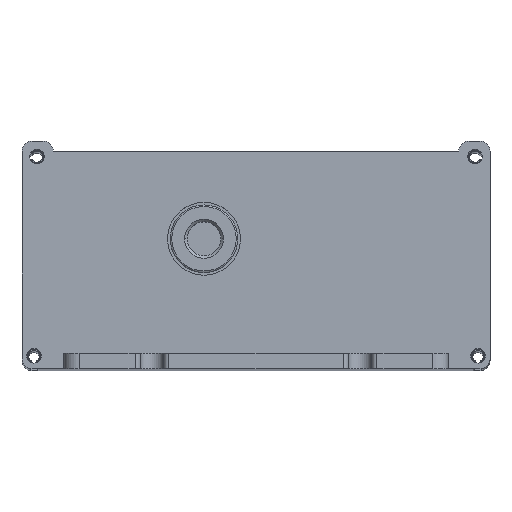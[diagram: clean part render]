
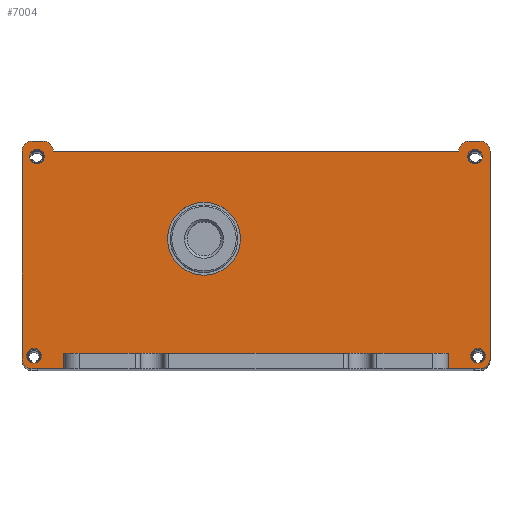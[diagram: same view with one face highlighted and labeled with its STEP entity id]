
A CAD part, top view. The second image highlights one B-rep face of the part: STEP entity #7004.
In plain terms, the highlighted planar face has unit normal (0, 0, 1).
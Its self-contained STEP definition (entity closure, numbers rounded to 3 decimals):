
#6075=DIRECTION('',(-1.,0.,0.));
#6076=VECTOR('',#6075,74.);
#6077=CARTESIAN_POINT('',(82.,3.,3.));
#6078=LINE('',#6077,#6076);
#6139=CARTESIAN_POINT('',(87.1,40.8,3.));
#6140=DIRECTION('',(0.,0.,-1.));
#6141=DIRECTION('',(1.,0.,0.));
#6142=AXIS2_PLACEMENT_3D('',#6139,#6140,#6141);
#6144=CARTESIAN_POINT('',(87.1,40.8,3.));
#6145=DIRECTION('',(0.,0.,-1.));
#6146=DIRECTION('',(-1.,0.,0.));
#6147=AXIS2_PLACEMENT_3D('',#6144,#6145,#6146);
#6149=CARTESIAN_POINT('',(2.9,40.8,3.));
#6150=DIRECTION('',(0.,0.,-1.));
#6151=DIRECTION('',(1.,0.,0.));
#6152=AXIS2_PLACEMENT_3D('',#6149,#6150,#6151);
#6154=CARTESIAN_POINT('',(2.9,40.8,3.));
#6155=DIRECTION('',(0.,0.,-1.));
#6156=DIRECTION('',(-1.,0.,0.));
#6157=AXIS2_PLACEMENT_3D('',#6154,#6155,#6156);
#6159=CARTESIAN_POINT('',(2.3,2.5,3.));
#6160=DIRECTION('',(0.,0.,-1.));
#6161=DIRECTION('',(-1.,0.,0.));
#6162=AXIS2_PLACEMENT_3D('',#6159,#6160,#6161);
#6164=CARTESIAN_POINT('',(2.3,2.5,3.));
#6165=DIRECTION('',(0.,0.,-1.));
#6166=DIRECTION('',(1.,0.,0.));
#6167=AXIS2_PLACEMENT_3D('',#6164,#6165,#6166);
#6169=CARTESIAN_POINT('',(87.7,2.5,3.));
#6170=DIRECTION('',(0.,0.,-1.));
#6171=DIRECTION('',(1.,0.,0.));
#6172=AXIS2_PLACEMENT_3D('',#6169,#6170,#6171);
#6174=CARTESIAN_POINT('',(87.7,2.5,3.));
#6175=DIRECTION('',(0.,0.,-1.));
#6176=DIRECTION('',(-1.,0.,0.));
#6177=AXIS2_PLACEMENT_3D('',#6174,#6175,#6176);
#6179=CARTESIAN_POINT('',(35.,25.,3.));
#6180=DIRECTION('',(0.,0.,-1.));
#6181=DIRECTION('',(-1.,0.,0.));
#6182=AXIS2_PLACEMENT_3D('',#6179,#6180,#6181);
#6184=CARTESIAN_POINT('',(35.,25.,3.));
#6185=DIRECTION('',(0.,0.,-1.));
#6186=DIRECTION('',(1.,0.,0.));
#6187=AXIS2_PLACEMENT_3D('',#6184,#6185,#6186);
#6189=DIRECTION('',(1.,0.,0.));
#6190=VECTOR('',#6189,6.);
#6191=CARTESIAN_POINT('',(2.,0.,3.));
#6192=LINE('',#6191,#6190);
#6193=CARTESIAN_POINT('',(2.,2.,3.));
#6194=DIRECTION('',(0.,0.,1.));
#6195=DIRECTION('',(-1.,0.,0.));
#6196=AXIS2_PLACEMENT_3D('',#6193,#6194,#6195);
#6198=DIRECTION('',(0.,-1.,0.));
#6199=VECTOR('',#6198,39.8);
#6200=CARTESIAN_POINT('',(0.,41.8,3.));
#6201=LINE('',#6200,#6199);
#6202=CARTESIAN_POINT('',(2.,41.8,3.));
#6203=DIRECTION('',(0.,0.,1.));
#6204=DIRECTION('',(0.,1.,0.));
#6205=AXIS2_PLACEMENT_3D('',#6202,#6203,#6204);
#6207=DIRECTION('',(-1.,0.,0.));
#6208=VECTOR('',#6207,2.);
#6209=CARTESIAN_POINT('',(4.,43.8,3.));
#6210=LINE('',#6209,#6208);
#6211=CARTESIAN_POINT('',(4.,41.8,3.));
#6212=DIRECTION('',(0.,0.,1.));
#6213=DIRECTION('',(1.,0.,0.));
#6214=AXIS2_PLACEMENT_3D('',#6211,#6212,#6213);
#6216=DIRECTION('',(-1.,0.,0.));
#6217=VECTOR('',#6216,78.);
#6218=CARTESIAN_POINT('',(84.,41.8,3.));
#6219=LINE('',#6218,#6217);
#6220=CARTESIAN_POINT('',(86.,41.8,3.));
#6221=DIRECTION('',(0.,0.,1.));
#6222=DIRECTION('',(0.,1.,0.));
#6223=AXIS2_PLACEMENT_3D('',#6220,#6221,#6222);
#6225=DIRECTION('',(-1.,0.,0.));
#6226=VECTOR('',#6225,2.);
#6227=CARTESIAN_POINT('',(88.,43.8,3.));
#6228=LINE('',#6227,#6226);
#6229=CARTESIAN_POINT('',(88.,41.8,3.));
#6230=DIRECTION('',(0.,0.,1.));
#6231=DIRECTION('',(1.,0.,0.));
#6232=AXIS2_PLACEMENT_3D('',#6229,#6230,#6231);
#6234=DIRECTION('',(0.,1.,0.));
#6235=VECTOR('',#6234,39.8);
#6236=CARTESIAN_POINT('',(90.,2.,3.));
#6237=LINE('',#6236,#6235);
#6238=CARTESIAN_POINT('',(88.,2.,3.));
#6239=DIRECTION('',(0.,0.,1.));
#6240=DIRECTION('',(0.,-1.,0.));
#6241=AXIS2_PLACEMENT_3D('',#6238,#6239,#6240);
#6243=DIRECTION('',(1.,0.,0.));
#6244=VECTOR('',#6243,6.);
#6245=CARTESIAN_POINT('',(82.,0.,3.));
#6246=LINE('',#6245,#6244);
#6287=DIRECTION('',(0.,-1.,0.));
#6288=VECTOR('',#6287,3.);
#6289=CARTESIAN_POINT('',(8.,3.,3.));
#6290=LINE('',#6289,#6288);
#6379=DIRECTION('',(0.,1.,0.));
#6380=VECTOR('',#6379,3.);
#6381=CARTESIAN_POINT('',(82.,0.,3.));
#6382=LINE('',#6381,#6380);
#6515=CARTESIAN_POINT('',(88.,43.8,3.));
#6516=CARTESIAN_POINT('',(86.,43.8,3.));
#6517=VERTEX_POINT('',#6515);
#6518=VERTEX_POINT('',#6516);
#6519=CARTESIAN_POINT('',(84.,41.8,3.));
#6520=VERTEX_POINT('',#6519);
#6521=CARTESIAN_POINT('',(6.,41.8,3.));
#6522=VERTEX_POINT('',#6521);
#6523=CARTESIAN_POINT('',(4.,43.8,3.));
#6524=VERTEX_POINT('',#6523);
#6525=CARTESIAN_POINT('',(2.,43.8,3.));
#6526=VERTEX_POINT('',#6525);
#6527=CARTESIAN_POINT('',(0.,41.8,3.));
#6528=VERTEX_POINT('',#6527);
#6529=CARTESIAN_POINT('',(0.,2.,3.));
#6530=VERTEX_POINT('',#6529);
#6531=CARTESIAN_POINT('',(2.,0.,3.));
#6532=VERTEX_POINT('',#6531);
#6533=CARTESIAN_POINT('',(88.,0.,3.));
#6534=CARTESIAN_POINT('',(90.,2.,3.));
#6535=VERTEX_POINT('',#6533);
#6536=VERTEX_POINT('',#6534);
#6537=CARTESIAN_POINT('',(90.,41.8,3.));
#6538=VERTEX_POINT('',#6537);
#6539=CARTESIAN_POINT('',(88.5,40.8,3.));
#6540=CARTESIAN_POINT('',(85.7,40.8,3.));
#6541=VERTEX_POINT('',#6539);
#6542=VERTEX_POINT('',#6540);
#6543=CARTESIAN_POINT('',(4.3,40.8,3.));
#6544=CARTESIAN_POINT('',(1.5,40.8,3.));
#6545=VERTEX_POINT('',#6543);
#6546=VERTEX_POINT('',#6544);
#6547=CARTESIAN_POINT('',(0.9,2.5,3.));
#6548=CARTESIAN_POINT('',(3.7,2.5,3.));
#6549=VERTEX_POINT('',#6547);
#6550=VERTEX_POINT('',#6548);
#6551=CARTESIAN_POINT('',(89.1,2.5,3.));
#6552=CARTESIAN_POINT('',(86.3,2.5,3.));
#6553=VERTEX_POINT('',#6551);
#6554=VERTEX_POINT('',#6552);
#6555=CARTESIAN_POINT('',(28.,25.,3.));
#6556=CARTESIAN_POINT('',(42.,25.,3.));
#6557=VERTEX_POINT('',#6555);
#6558=VERTEX_POINT('',#6556);
#6559=CARTESIAN_POINT('',(8.,3.,3.));
#6560=CARTESIAN_POINT('',(8.,0.,3.));
#6561=VERTEX_POINT('',#6559);
#6562=VERTEX_POINT('',#6560);
#6563=CARTESIAN_POINT('',(82.,0.,3.));
#6564=CARTESIAN_POINT('',(82.,3.,3.));
#6565=VERTEX_POINT('',#6563);
#6566=VERTEX_POINT('',#6564);
#6949=CARTESIAN_POINT('',(0.,0.,3.));
#6950=DIRECTION('',(0.,0.,1.));
#6951=DIRECTION('',(1.,0.,0.));
#6952=AXIS2_PLACEMENT_3D('',#6949,#6950,#6951);
#6953=PLANE('',#6952);
#6955=ORIENTED_EDGE('',*,*,#6954,.T.);
#6956=ORIENTED_EDGE('',*,*,#6796,.F.);
#6957=ORIENTED_EDGE('',*,*,#6636,.F.);
#6958=ORIENTED_EDGE('',*,*,#6651,.F.);
#6959=ORIENTED_EDGE('',*,*,#6665,.F.);
#6960=ORIENTED_EDGE('',*,*,#6679,.F.);
#6961=ORIENTED_EDGE('',*,*,#6693,.F.);
#6962=ORIENTED_EDGE('',*,*,#6707,.F.);
#6963=ORIENTED_EDGE('',*,*,#6721,.F.);
#6964=ORIENTED_EDGE('',*,*,#6735,.F.);
#6965=ORIENTED_EDGE('',*,*,#6749,.F.);
#6966=ORIENTED_EDGE('',*,*,#6763,.F.);
#6967=ORIENTED_EDGE('',*,*,#6777,.F.);
#6968=ORIENTED_EDGE('',*,*,#6791,.F.);
#6970=ORIENTED_EDGE('',*,*,#6969,.T.);
#6971=ORIENTED_EDGE('',*,*,#6904,.T.);
#6972=EDGE_LOOP('',(#6955,#6956,#6957,#6958,#6959,#6960,#6961,#6962,#6963,#6964,
#6965,#6966,#6967,#6968,#6970,#6971));
#6973=FACE_OUTER_BOUND('',#6972,.F.);
#6975=ORIENTED_EDGE('',*,*,#6974,.F.);
#6977=ORIENTED_EDGE('',*,*,#6976,.F.);
#6978=EDGE_LOOP('',(#6975,#6977));
#6979=FACE_BOUND('',#6978,.F.);
#6981=ORIENTED_EDGE('',*,*,#6980,.F.);
#6983=ORIENTED_EDGE('',*,*,#6982,.F.);
#6984=EDGE_LOOP('',(#6981,#6983));
#6985=FACE_BOUND('',#6984,.F.);
#6987=ORIENTED_EDGE('',*,*,#6986,.F.);
#6989=ORIENTED_EDGE('',*,*,#6988,.F.);
#6990=EDGE_LOOP('',(#6987,#6989));
#6991=FACE_BOUND('',#6990,.F.);
#6993=ORIENTED_EDGE('',*,*,#6992,.F.);
#6995=ORIENTED_EDGE('',*,*,#6994,.F.);
#6996=EDGE_LOOP('',(#6993,#6995));
#6997=FACE_BOUND('',#6996,.F.);
#6999=ORIENTED_EDGE('',*,*,#6998,.F.);
#7001=ORIENTED_EDGE('',*,*,#7000,.F.);
#7002=EDGE_LOOP('',(#6999,#7001));
#7003=FACE_BOUND('',#7002,.F.);
#6143=CIRCLE('',#6142,1.4);
#6148=CIRCLE('',#6147,1.4);
#6153=CIRCLE('',#6152,1.4);
#6158=CIRCLE('',#6157,1.4);
#6163=CIRCLE('',#6162,1.4);
#6168=CIRCLE('',#6167,1.4);
#6173=CIRCLE('',#6172,1.4);
#6178=CIRCLE('',#6177,1.4);
#6183=CIRCLE('',#6182,7.);
#6188=CIRCLE('',#6187,7.);
#6197=CIRCLE('',#6196,2.);
#6206=CIRCLE('',#6205,2.);
#6215=CIRCLE('',#6214,2.);
#6224=CIRCLE('',#6223,2.);
#6233=CIRCLE('',#6232,2.);
#6242=CIRCLE('',#6241,2.);
#6636=EDGE_CURVE('',#6530,#6532,#6197,.T.);
#6651=EDGE_CURVE('',#6528,#6530,#6201,.T.);
#6665=EDGE_CURVE('',#6526,#6528,#6206,.T.);
#6679=EDGE_CURVE('',#6524,#6526,#6210,.T.);
#6693=EDGE_CURVE('',#6522,#6524,#6215,.T.);
#6707=EDGE_CURVE('',#6520,#6522,#6219,.T.);
#6721=EDGE_CURVE('',#6518,#6520,#6224,.T.);
#6735=EDGE_CURVE('',#6517,#6518,#6228,.T.);
#6749=EDGE_CURVE('',#6538,#6517,#6233,.T.);
#6763=EDGE_CURVE('',#6536,#6538,#6237,.T.);
#6777=EDGE_CURVE('',#6535,#6536,#6242,.T.);
#6791=EDGE_CURVE('',#6565,#6535,#6246,.T.);
#6796=EDGE_CURVE('',#6532,#6562,#6192,.T.);
#6904=EDGE_CURVE('',#6566,#6561,#6078,.T.);
#6954=EDGE_CURVE('',#6561,#6562,#6290,.T.);
#6969=EDGE_CURVE('',#6565,#6566,#6382,.T.);
#6974=EDGE_CURVE('',#6545,#6546,#6153,.T.);
#6976=EDGE_CURVE('',#6546,#6545,#6158,.T.);
#6980=EDGE_CURVE('',#6549,#6550,#6163,.T.);
#6982=EDGE_CURVE('',#6550,#6549,#6168,.T.);
#6986=EDGE_CURVE('',#6553,#6554,#6173,.T.);
#6988=EDGE_CURVE('',#6554,#6553,#6178,.T.);
#6992=EDGE_CURVE('',#6557,#6558,#6183,.T.);
#6994=EDGE_CURVE('',#6558,#6557,#6188,.T.);
#6998=EDGE_CURVE('',#6541,#6542,#6143,.T.);
#7000=EDGE_CURVE('',#6542,#6541,#6148,.T.);
#7004=ADVANCED_FACE('',(#6973,#6979,#6985,#6991,#6997,#7003),#6953,.T.);
